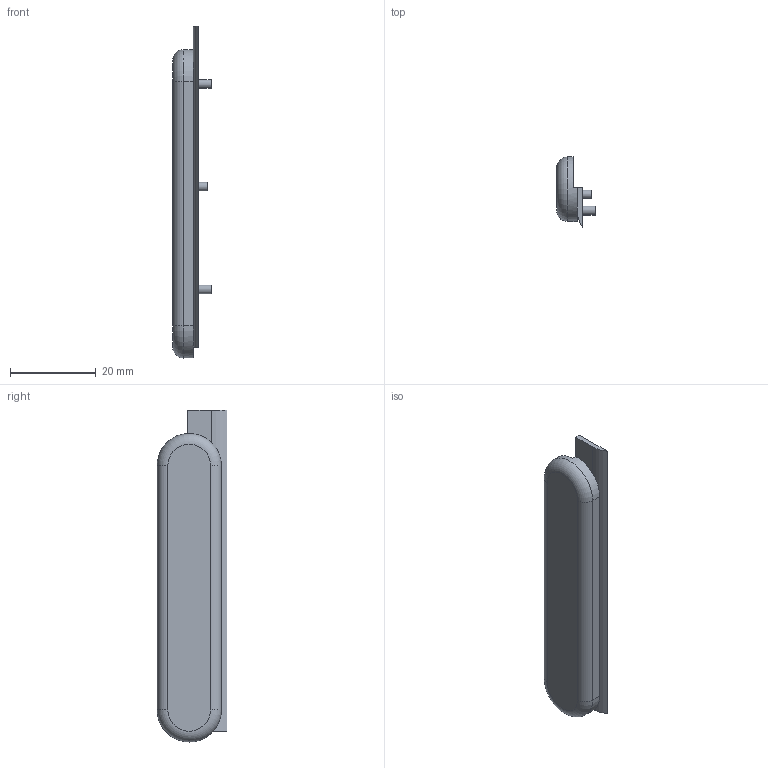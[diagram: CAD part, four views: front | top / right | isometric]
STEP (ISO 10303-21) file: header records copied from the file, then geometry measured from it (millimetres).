
FILE_DESCRIPTION(('Open CASCADE Model'),'2;1');
FILE_NAME('ptt_cap_orange_72mm','2026-09-08T13:43:18',('Author'),( 'Open CASCADE'),'Open CASCADE STEP processor 7.8','build123d', 'Unknown');
FILE_SCHEMA(('AUTOMOTIVE_DESIGN { 1 0 10303 214 1 1 1 1 }'));
Length unit declared in the file: millimetre
Products named in the file (2): =>[0:1:1:2]; ptt_cap_orange_72mm
Assembly tree (1 placements, depth 2):
  =>[0:1:1:2]
    ptt_cap_orange_72mm
Bounding box: 9 x 16.3 x 77.5 mm (x, y, z)
Volume: 5004.1 mm3; surface area: 3442 mm2
Topology: 1 solids, 1 shells, 23 faces, 49 edges, 31 vertices
Faces by surface type: plane 13, cylinder 8, torus 2
Full cylindrical faces by diameter (mm): 2 x3
Entity records: 1303 total; most frequent: CARTESIAN_POINT 261, DIRECTION 200, LINE 101, VECTOR 101, ORIENTED_EDGE 98, PCURVE 98, DEFINITIONAL_REPRESENTATION 98, EDGE_CURVE 49
